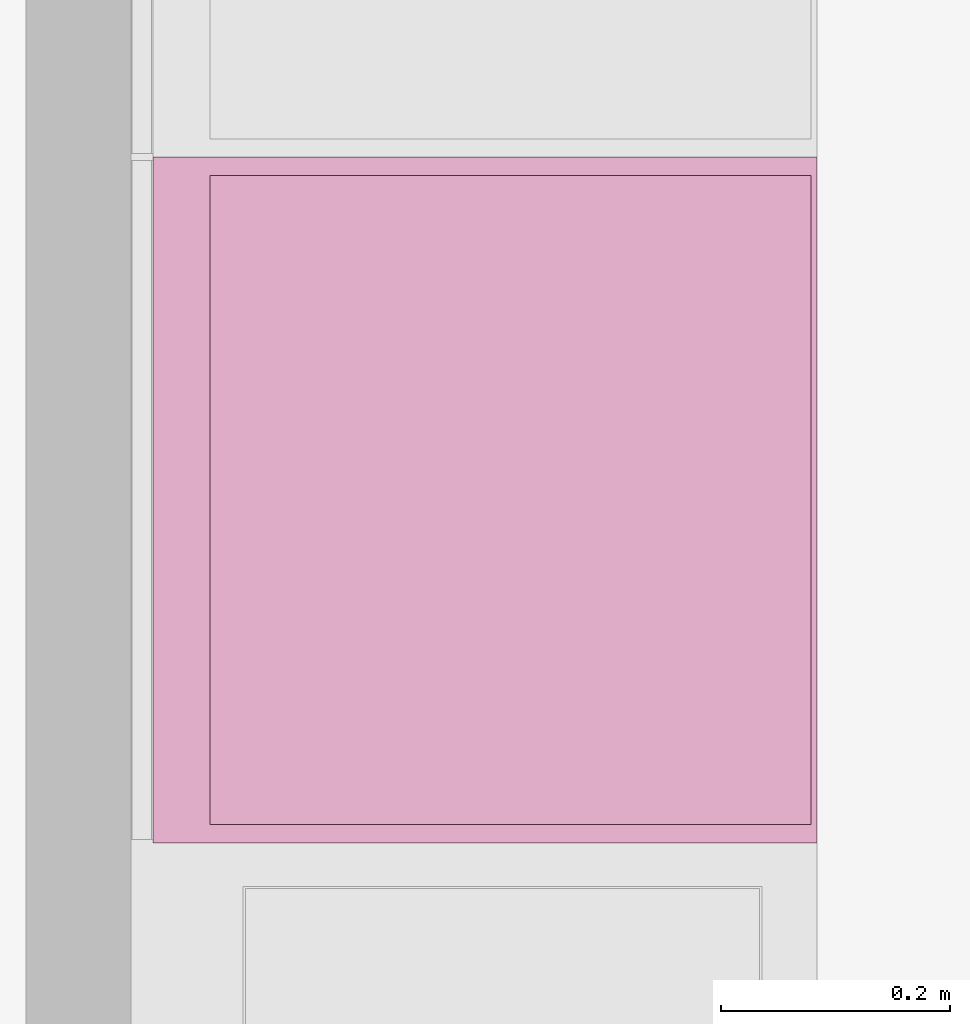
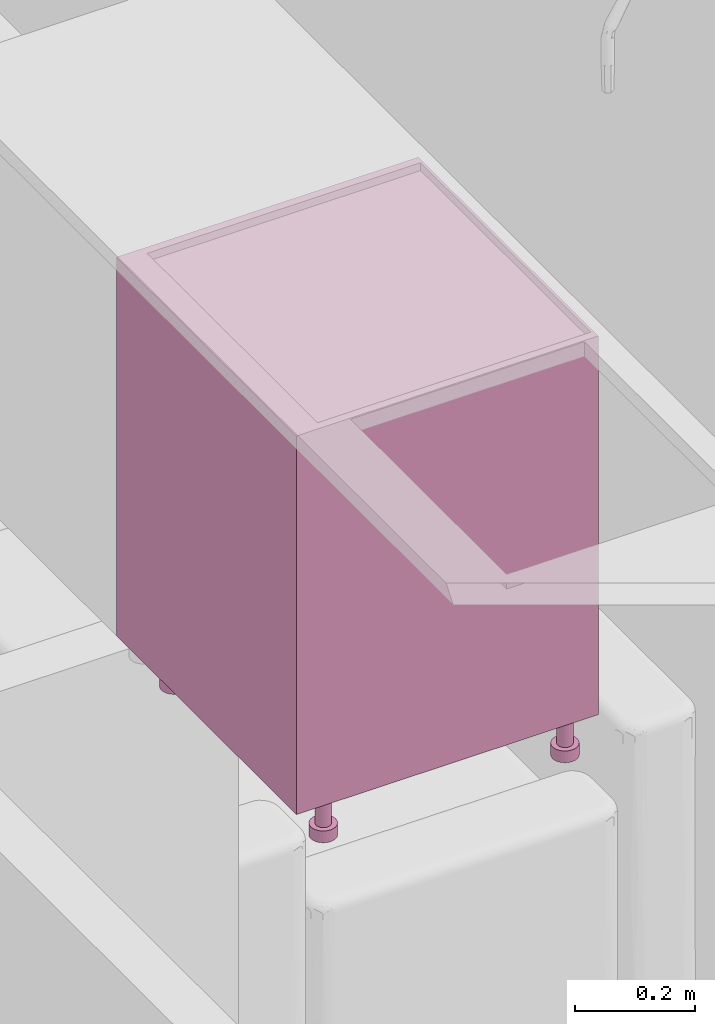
# One storey, part 77 of 125: 1 furnishing.
"""IFC2X3 building model written with IfcOpenShell, lengths in millimetres."""

from ifc_helpers import new_model, entity, si_unit, converted_unit, direction, frame, origin, place, context, subcontext, project, spatial, faceted_brep, source, transform, mapped, material, type_object, type_shapes, element, save


model = new_model("IFC2X3")

# Units and contexts
model_context = context("Model", 3, precision=0.01, world=origin(), true_north=direction((6.123233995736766e-17, 1.0)))
plan_context = context("Plan", 3, precision=0.01, world=origin(), true_north=direction((6.123233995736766e-17, 1.0)))
body_context = subcontext(model_context, "Body", "Model", "MODEL_VIEW")
ifc_project = project(units=[si_unit("LENGTHUNIT", "METRE", prefix="MILLI"), converted_unit("PLANEANGLEUNIT", "DEGREE", entity("IfcPlaneAngleMeasure", 0.017453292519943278), si_unit("PLANEANGLEUNIT", "RADIAN"), dimensions=[0, 0, 0, 0, 0, 0, 0]), si_unit("AREAUNIT", "SQUARE_METRE")], contexts=[model_context, plan_context])

# Site, building, storey, space
site_placement = place(None, origin())
site = spatial("IfcSite", under=ifc_project, at=site_placement, Name="Default", CompositionType="ELEMENT")
building_placement = place(site_placement, origin())
building = spatial("IfcBuilding", under=site, at=building_placement, CompositionType="ELEMENT")
storey_placement = place(building_placement, frame((0.0, 0.0, 3125.0)))
storey = spatial("IfcBuildingStorey", under=building, at=storey_placement, Name="2K", CompositionType="ELEMENT", Elevation=3125.0)
space_placement = place(storey_placement, origin())
space = spatial("IfcSpace", under=storey, at=space_placement, Name="2-2.2", CompositionType="ELEMENT", InteriorOrExteriorSpace="INTERNAL")

# Furnishing
ifc_material = material(Name="<Unnamed>")
furniture_type = type_object("IfcFurnitureType", Name="HR_Casework_Kitchen_Generic_Appliance_v1:Dishwasher", AssemblyPlace="NOTDEFINED", material=ifc_material)
shared_shape = source(origin(), body_context, "Body", "Brep", [
    faceted_brep([(305.7003264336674, -585.7846096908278, -3101.0), (310.6708891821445, -581.9705627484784, -3101.0), (300.70032643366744, -577.1243556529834, -3101.0), (297.32379306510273, -578.5229615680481, -3101.0), (299.91198351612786, -588.1822198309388, -3101.0), (303.59982137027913, -574.8994949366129, -3101.0), (314.4849361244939, -577.0, -3101.0), (305.82468208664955, -572.0, -3101.0), (307.2232880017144, -568.6234666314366, -3101.0), (316.8825462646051, -571.2116570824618, -3101.0), (307.70032643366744, -565.0, -3101.0), (317.7003264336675, -565.0, -3101.0), (307.2232880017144, -561.3765333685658, -3101.0), (316.88254626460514, -558.7883429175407, -3101.0), (305.82468208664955, -558.0, -3101.0), (314.484936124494, -553.0, -3101.0), (303.59982137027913, -555.1005050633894, -3101.0), (310.67088918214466, -548.0294372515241, -3101.0), (300.70032643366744, -552.875644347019, -3101.0), (305.7003264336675, -544.2153903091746, -3101.0), (297.32379306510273, -551.4770384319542, -3101.0), (299.91198351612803, -541.8177801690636, -3101.0), (293.7003264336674, -551.0, -3101.0), (293.70032643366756, -541.0, -3101.0), (290.07685980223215, -551.4770384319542, -3101.0), (287.488669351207, -541.8177801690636, -3101.0), (286.70032643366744, -552.875644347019, -3101.0), (281.7003264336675, -544.2153903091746, -3101.0), (283.80083149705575, -555.1005050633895, -3101.0), (276.7297636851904, -548.029437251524, -3101.0), (281.5759707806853, -558.0, -3101.0), (272.91571674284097, -553.0, -3101.0), (270.51810660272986, -558.7883429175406, -3101.0), (280.1773648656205, -561.3765333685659, -3101.0), (269.7003264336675, -565.0, -3101.0), (279.7003264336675, -565.0, -3101.0), (270.51810660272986, -571.2116570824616, -3101.0), (280.1773648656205, -568.6234666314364, -3101.0), (272.9157167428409, -577.0, -3101.0), (281.57597078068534, -572.0, -3101.0), (276.7297636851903, -581.9705627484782, -3101.0), (283.80083149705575, -574.8994949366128, -3101.0), (281.70032643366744, -585.7846096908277, -3101.0), (286.70032643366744, -577.1243556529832, -3101.0), (287.4886693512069, -588.1822198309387, -3101.0), (290.07685980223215, -578.5229615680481, -3101.0), (293.7003264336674, -589.0, -3101.0), (293.70032643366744, -579.0, -3101.0), (299.91198351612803, -541.8177801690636, -3125.0), (305.7003264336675, -544.2153903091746, -3125.0), (310.67088918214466, -548.0294372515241, -3125.0), (314.484936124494, -553.0, -3125.0), (316.88254626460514, -558.7883429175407, -3125.0), (317.7003264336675, -565.0, -3125.0), (316.8825462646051, -571.2116570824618, -3125.0), (314.4849361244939, -577.0, -3125.0), (310.6708891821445, -581.9705627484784, -3125.0), (305.7003264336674, -585.7846096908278, -3125.0), (299.91198351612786, -588.1822198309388, -3125.0), (293.7003264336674, -589.0, -3125.0), (287.4886693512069, -588.1822198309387, -3125.0), (281.70032643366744, -585.7846096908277, -3125.0), (276.7297636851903, -581.9705627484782, -3125.0), (272.9157167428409, -577.0, -3125.0), (270.51810660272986, -571.2116570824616, -3125.0), (269.7003264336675, -565.0, -3125.0), (270.51810660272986, -558.7883429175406, -3125.0), (272.91571674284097, -553.0, -3125.0), (276.7297636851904, -548.029437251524, -3125.0), (281.7003264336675, -544.2153903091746, -3125.0), (287.488669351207, -541.8177801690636, -3125.0), (293.70032643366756, -541.0, -3125.0), (297.32379306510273, -578.5229615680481, -3025.0), (300.70032643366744, -577.1243556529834, -3025.0), (303.59982137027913, -574.8994949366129, -3025.0), (305.8246820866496, -572.0, -3025.0), (307.2232880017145, -568.6234666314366, -3025.0), (307.70032643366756, -565.0, -3025.0), (307.2232880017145, -561.3765333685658, -3025.0), (305.8246820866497, -558.0, -3025.0), (303.5998213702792, -555.1005050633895, -3025.0), (300.70032643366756, -552.875644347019, -3025.0), (297.32379306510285, -551.4770384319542, -3025.0), (293.70032643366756, -551.0, -3025.0), (290.07685980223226, -551.4770384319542, -3025.0), (286.70032643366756, -552.875644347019, -3025.0), (283.80083149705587, -555.1005050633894, -3025.0), (281.5759707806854, -558.0, -3025.0), (280.1773648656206, -561.3765333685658, -3025.0), (279.70032643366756, -565.0, -3025.0), (280.1773648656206, -568.6234666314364, -3025.0), (281.5759707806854, -572.0, -3025.0), (283.8008314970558, -574.8994949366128, -3025.0), (286.7003264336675, -577.1243556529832, -3025.0), (290.07685980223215, -578.5229615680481, -3025.0), (293.70032643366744, -579.0, -3025.0)], [[[0, 1, 2]], [[0, 2, 3]], [[3, 4, 0]], [[2, 1, 5]], [[6, 5, 1]], [[7, 5, 6]], [[8, 7, 6]], [[8, 6, 9]], [[8, 9, 10]], [[10, 9, 11]], [[12, 10, 11]], [[12, 11, 13]], [[14, 12, 13]], [[14, 13, 15]], [[16, 14, 15]], [[15, 17, 16]], [[17, 18, 16]], [[18, 17, 19]], [[18, 19, 20]], [[21, 20, 19]], [[20, 21, 22]], [[22, 21, 23]], [[23, 24, 22]], [[24, 23, 25]], [[24, 25, 26]], [[27, 26, 25]], [[27, 28, 26]], [[27, 29, 28]], [[30, 28, 29]], [[31, 30, 29]], [[32, 30, 31]], [[33, 30, 32]], [[33, 32, 34]], [[34, 35, 33]], [[36, 35, 34]], [[36, 37, 35]], [[37, 36, 38]], [[39, 37, 38]], [[39, 38, 40]], [[39, 40, 41]], [[40, 42, 41]], [[41, 42, 43]], [[43, 42, 44]], [[44, 45, 43]], [[46, 45, 44]], [[4, 47, 46]], [[45, 46, 47]], [[4, 3, 47]], [[48, 49, 50, 51, 52, 53, 54, 55, 56, 57, 58, 59, 60, 61, 62, 63, 64, 65, 66, 67, 68, 69, 70, 71]], [[64, 36, 34, 65]], [[63, 38, 36, 64]], [[42, 40, 62, 61]], [[63, 62, 40, 38]], [[44, 42, 61, 60]], [[46, 44, 60, 59]], [[58, 4, 46, 59]], [[57, 0, 4, 58]], [[54, 53, 11, 9]], [[1, 0, 57, 56]], [[6, 55, 54, 9]], [[6, 1, 56, 55]], [[52, 13, 11, 53]], [[51, 15, 13, 52]], [[19, 17, 50, 49]], [[51, 50, 17, 15]], [[21, 19, 49, 48]], [[23, 21, 48, 71]], [[27, 69, 68, 29]], [[31, 67, 66, 32]], [[68, 67, 31, 29]], [[32, 66, 65, 34]], [[25, 70, 69, 27]], [[70, 25, 23, 71]], [[72, 73, 74, 75, 76, 77, 78, 79, 80, 81, 82, 83, 84, 85, 86, 87, 88, 89, 90, 91, 92, 93, 94, 95]], [[37, 39, 91, 90]], [[35, 37, 90, 89]], [[43, 45, 94, 93]], [[41, 43, 93, 92]], [[39, 41, 92, 91]], [[47, 95, 94, 45]], [[2, 5, 74, 73]], [[3, 2, 73, 72]], [[8, 10, 77, 76]], [[7, 8, 76, 75]], [[5, 7, 75, 74]], [[3, 72, 95, 47]], [[79, 78, 12, 14]], [[78, 77, 10, 12]], [[80, 16, 18, 81]], [[16, 80, 79, 14]], [[81, 18, 20, 82]], [[22, 83, 82, 20]], [[26, 28, 86, 85]], [[24, 26, 85, 84]], [[33, 35, 89, 88]], [[30, 33, 88, 87]], [[28, 30, 87, 86]], [[24, 84, 83, 22]]]),
    faceted_brep([(-192.29967356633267, -585.7846096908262, -3101.0), (-187.3291108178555, -581.9705627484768, -3101.0), (-197.29967356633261, -577.1243556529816, -3101.0), (-200.67620693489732, -578.5229615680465, -3101.0), (-198.08801648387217, -588.1822198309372, -3101.0), (-194.40017862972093, -574.8994949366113, -3101.0), (-183.51506387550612, -577.0, -3101.0), (-192.17531791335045, -572.0, -3101.0), (-190.77671199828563, -568.6234666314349, -3101.0), (-181.11745373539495, -571.2116570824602, -3101.0), (-190.29967356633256, -565.0, -3101.0), (-180.29967356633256, -565.0, -3101.0), (-190.77671199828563, -561.3765333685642, -3101.0), (-181.11745373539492, -558.788342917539, -3101.0), (-192.17531791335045, -558.0, -3101.0), (-183.515063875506, -553.0, -3101.0), (-194.40017862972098, -555.1005050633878, -3101.0), (-187.3291108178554, -548.0294372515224, -3101.0), (-197.29967356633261, -552.8756443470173, -3101.0), (-192.29967356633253, -544.215390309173, -3101.0), (-200.67620693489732, -551.4770384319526, -3101.0), (-198.08801648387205, -541.8177801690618, -3101.0), (-204.29967356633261, -551.0, -3101.0), (-204.29967356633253, -541.0, -3101.0), (-207.92314019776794, -551.4770384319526, -3101.0), (-210.51133064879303, -541.8177801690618, -3101.0), (-211.29967356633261, -552.8756443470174, -3101.0), (-216.29967356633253, -544.215390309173, -3101.0), (-214.19916850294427, -555.1005050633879, -3101.0), (-221.27023631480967, -548.0294372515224, -3101.0), (-216.42402921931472, -558.0, -3101.0), (-225.08428325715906, -553.0, -3101.0), (-227.48189339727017, -558.788342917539, -3101.0), (-217.8226351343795, -561.3765333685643, -3101.0), (-228.2996735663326, -565.0, -3101.0), (-218.29967356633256, -565.0, -3101.0), (-227.48189339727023, -571.21165708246, -3101.0), (-217.8226351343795, -568.6234666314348, -3101.0), (-225.08428325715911, -577.0, -3101.0), (-216.42402921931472, -572.0, -3101.0), (-221.27023631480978, -581.9705627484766, -3101.0), (-214.19916850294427, -574.8994949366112, -3101.0), (-216.29967356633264, -585.784609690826, -3101.0), (-211.29967356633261, -577.1243556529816, -3101.0), (-210.51133064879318, -588.1822198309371, -3101.0), (-207.9231401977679, -578.5229615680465, -3101.0), (-204.2996735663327, -589.0, -3101.0), (-204.29967356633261, -579.0, -3101.0), (-198.08801648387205, -541.8177801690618, -3125.0), (-192.29967356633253, -544.215390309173, -3125.0), (-187.3291108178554, -548.0294372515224, -3125.0), (-183.515063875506, -553.0, -3125.0), (-181.11745373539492, -558.788342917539, -3125.0), (-180.29967356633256, -565.0, -3125.0), (-181.11745373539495, -571.2116570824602, -3125.0), (-183.51506387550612, -577.0, -3125.0), (-187.3291108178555, -581.9705627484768, -3125.0), (-192.29967356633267, -585.7846096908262, -3125.0), (-198.08801648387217, -588.1822198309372, -3125.0), (-204.2996735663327, -589.0, -3125.0), (-210.51133064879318, -588.1822198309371, -3125.0), (-216.29967356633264, -585.784609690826, -3125.0), (-221.27023631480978, -581.9705627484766, -3125.0), (-225.08428325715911, -577.0, -3125.0), (-227.48189339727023, -571.21165708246, -3125.0), (-228.2996735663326, -565.0, -3125.0), (-227.48189339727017, -558.788342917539, -3125.0), (-225.08428325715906, -553.0, -3125.0), (-221.27023631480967, -548.0294372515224, -3125.0), (-216.29967356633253, -544.215390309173, -3125.0), (-210.51133064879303, -541.8177801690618, -3125.0), (-204.29967356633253, -541.0, -3125.0), (-200.67620693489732, -578.5229615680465, -3025.0), (-197.29967356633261, -577.1243556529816, -3025.0), (-194.40017862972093, -574.8994949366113, -3025.0), (-192.17531791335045, -572.0, -3025.0), (-190.77671199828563, -568.6234666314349, -3025.0), (-190.29967356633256, -565.0, -3025.0), (-190.77671199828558, -561.3765333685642, -3025.0), (-192.1753179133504, -558.0, -3025.0), (-194.40017862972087, -555.1005050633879, -3025.0), (-197.29967356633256, -552.8756443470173, -3025.0), (-200.67620693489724, -551.4770384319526, -3025.0), (-204.29967356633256, -551.0, -3025.0), (-207.92314019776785, -551.4770384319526, -3025.0), (-211.29967356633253, -552.8756443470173, -3025.0), (-214.1991685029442, -555.1005050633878, -3025.0), (-216.4240292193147, -558.0, -3025.0), (-217.8226351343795, -561.3765333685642, -3025.0), (-218.29967356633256, -565.0, -3025.0), (-217.8226351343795, -568.6234666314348, -3025.0), (-216.42402921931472, -572.0, -3025.0), (-214.19916850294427, -574.8994949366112, -3025.0), (-211.2996735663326, -577.1243556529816, -3025.0), (-207.9231401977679, -578.5229615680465, -3025.0), (-204.29967356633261, -579.0, -3025.0)], [[[0, 1, 2]], [[0, 2, 3]], [[3, 4, 0]], [[2, 1, 5]], [[6, 5, 1]], [[7, 5, 6]], [[8, 7, 6]], [[8, 6, 9]], [[8, 9, 10]], [[10, 9, 11]], [[12, 10, 11]], [[12, 11, 13]], [[14, 12, 13]], [[14, 13, 15]], [[16, 14, 15]], [[15, 17, 16]], [[17, 18, 16]], [[18, 17, 19]], [[18, 19, 20]], [[21, 20, 19]], [[20, 21, 22]], [[22, 21, 23]], [[23, 24, 22]], [[24, 23, 25]], [[24, 25, 26]], [[27, 26, 25]], [[27, 28, 26]], [[27, 29, 28]], [[30, 28, 29]], [[31, 30, 29]], [[32, 30, 31]], [[33, 30, 32]], [[33, 32, 34]], [[34, 35, 33]], [[36, 35, 34]], [[36, 37, 35]], [[37, 36, 38]], [[39, 37, 38]], [[39, 38, 40]], [[39, 40, 41]], [[40, 42, 41]], [[41, 42, 43]], [[43, 42, 44]], [[44, 45, 43]], [[46, 45, 44]], [[4, 47, 46]], [[45, 46, 47]], [[4, 3, 47]], [[48, 49, 50, 51, 52, 53, 54, 55, 56, 57, 58, 59, 60, 61, 62, 63, 64, 65, 66, 67, 68, 69, 70, 71]], [[64, 36, 34, 65]], [[63, 38, 36, 64]], [[42, 40, 62, 61]], [[63, 62, 40, 38]], [[44, 42, 61, 60]], [[46, 44, 60, 59]], [[58, 4, 46, 59]], [[57, 0, 4, 58]], [[54, 53, 11, 9]], [[1, 0, 57, 56]], [[6, 55, 54, 9]], [[6, 1, 56, 55]], [[52, 13, 11, 53]], [[51, 15, 13, 52]], [[19, 17, 50, 49]], [[51, 50, 17, 15]], [[21, 19, 49, 48]], [[23, 21, 48, 71]], [[27, 69, 68, 29]], [[31, 67, 66, 32]], [[68, 67, 31, 29]], [[32, 66, 65, 34]], [[25, 70, 69, 27]], [[70, 25, 23, 71]], [[72, 73, 74, 75, 76, 77, 78, 79, 80, 81, 82, 83, 84, 85, 86, 87, 88, 89, 90, 91, 92, 93, 94, 95]], [[37, 39, 91, 90]], [[35, 37, 90, 89]], [[43, 45, 94, 93]], [[41, 43, 93, 92]], [[39, 41, 92, 91]], [[47, 95, 94, 45]], [[2, 5, 74, 73]], [[3, 2, 73, 72]], [[8, 10, 77, 76]], [[7, 8, 76, 75]], [[5, 7, 75, 74]], [[3, 72, 95, 47]], [[79, 78, 12, 14]], [[78, 77, 10, 12]], [[80, 16, 18, 81]], [[16, 80, 79, 14]], [[81, 18, 20, 82]], [[22, 83, 82, 20]], [[26, 28, 86, 85]], [[24, 26, 85, 84]], [[33, 35, 89, 88]], [[30, 33, 88, 87]], [[28, 30, 87, 86]], [[24, 84, 83, 22]]]),
    faceted_brep([(305.70032643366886, -120.78460969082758, -3101.0), (310.670889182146, -116.97056274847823, -3101.0), (300.7003264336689, -112.12435565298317, -3101.0), (297.3237930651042, -113.52296156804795, -3101.0), (299.91198351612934, -123.18221983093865, -3101.0), (303.5998213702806, -109.8994949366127, -3101.0), (314.48493612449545, -112.0, -3101.0), (305.824682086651, -107.0, -3101.0), (307.2232880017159, -103.62346663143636, -3101.0), (316.88254626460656, -106.21165708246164, -3101.0), (307.700326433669, -100.0, -3101.0), (317.700326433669, -100.0, -3101.0), (307.2232880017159, -96.3765333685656, -3101.0), (316.8825462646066, -93.78834291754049, -3101.0), (305.824682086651, -93.0, -3101.0), (314.4849361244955, -88.0, -3101.0), (303.5998213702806, -90.10050506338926, -3101.0), (310.67088918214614, -83.02943725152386, -3101.0), (300.7003264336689, -87.8756443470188, -3101.0), (305.700326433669, -79.21539030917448, -3101.0), (297.3237930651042, -86.477038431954, -3101.0), (299.9119835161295, -76.81778016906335, -3101.0), (293.70032643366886, -86.0, -3101.0), (293.70032643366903, -76.0, -3101.0), (290.0768598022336, -86.47703843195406, -3101.0), (287.4886693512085, -76.81778016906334, -3101.0), (286.7003264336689, -87.87564434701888, -3101.0), (281.700326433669, -79.21539030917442, -3101.0), (283.8008314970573, -90.10050506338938, -3101.0), (276.72976368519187, -83.0294372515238, -3101.0), (281.5759707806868, -93.0, -3101.0), (272.91571674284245, -88.0, -3101.0), (270.51810660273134, -93.78834291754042, -3101.0), (280.177364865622, -96.37653336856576, -3101.0), (269.700326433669, -100.0, -3101.0), (279.700326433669, -100.0, -3101.0), (270.51810660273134, -106.2116570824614, -3101.0), (280.177364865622, -103.62346663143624, -3101.0), (272.9157167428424, -112.0, -3101.0), (281.5759707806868, -107.0, -3101.0), (276.72976368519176, -116.97056274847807, -3101.0), (283.8008314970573, -109.89949493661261, -3101.0), (281.7003264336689, -120.78460969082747, -3101.0), (286.7003264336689, -112.1243556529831, -3101.0), (287.4886693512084, -123.1822198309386, -3101.0), (290.0768598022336, -113.52296156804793, -3101.0), (293.70032643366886, -124.0, -3101.0), (293.7003264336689, -114.0, -3101.0), (299.9119835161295, -76.81778016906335, -3125.0), (305.700326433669, -79.21539030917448, -3125.0), (310.67088918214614, -83.02943725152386, -3125.0), (314.4849361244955, -88.0, -3125.0), (316.8825462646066, -93.78834291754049, -3125.0), (317.700326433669, -100.0, -3125.0), (316.88254626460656, -106.21165708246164, -3125.0), (314.48493612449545, -112.0, -3125.0), (310.670889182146, -116.97056274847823, -3125.0), (305.70032643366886, -120.78460969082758, -3125.0), (299.91198351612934, -123.18221983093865, -3125.0), (293.70032643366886, -124.0, -3125.0), (287.4886693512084, -123.1822198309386, -3125.0), (281.7003264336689, -120.78460969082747, -3125.0), (276.72976368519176, -116.97056274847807, -3125.0), (272.9157167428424, -112.0, -3125.0), (270.51810660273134, -106.2116570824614, -3125.0), (269.700326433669, -100.0, -3125.0), (270.51810660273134, -93.78834291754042, -3125.0), (272.91571674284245, -88.0, -3125.0), (276.72976368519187, -83.0294372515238, -3125.0), (281.700326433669, -79.21539030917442, -3125.0), (287.4886693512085, -76.81778016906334, -3125.0), (293.70032643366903, -76.0, -3125.0), (297.32379306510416, -113.52296156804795, -3025.0), (300.70032643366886, -112.12435565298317, -3025.0), (303.59982137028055, -109.8994949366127, -3025.0), (305.824682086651, -107.0, -3025.0), (307.22328800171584, -103.62346663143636, -3025.0), (307.700326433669, -100.0, -3025.0), (307.2232880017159, -96.3765333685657, -3025.0), (305.82468208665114, -93.0, -3025.0), (303.5998213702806, -90.10050506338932, -3025.0), (300.700326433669, -87.87564434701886, -3025.0), (297.32379306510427, -86.47703843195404, -3025.0), (293.700326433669, -86.0, -3025.0), (290.0768598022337, -86.47703843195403, -3025.0), (286.700326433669, -87.87564434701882, -3025.0), (283.8008314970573, -90.1005050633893, -3025.0), (281.5759707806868, -93.0, -3025.0), (280.177364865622, -96.37653336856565, -3025.0), (279.700326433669, -100.0, -3025.0), (280.177364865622, -103.62346663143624, -3025.0), (281.5759707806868, -107.0, -3025.0), (283.80083149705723, -109.89949493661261, -3025.0), (286.7003264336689, -112.1243556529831, -3025.0), (290.07685980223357, -113.52296156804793, -3025.0), (293.70032643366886, -114.0, -3025.0)], [[[0, 1, 2]], [[0, 2, 3]], [[3, 4, 0]], [[2, 1, 5]], [[6, 5, 1]], [[7, 5, 6]], [[8, 7, 6]], [[8, 6, 9]], [[8, 9, 10]], [[10, 9, 11]], [[12, 10, 11]], [[12, 11, 13]], [[14, 12, 13]], [[14, 13, 15]], [[16, 14, 15]], [[15, 17, 16]], [[17, 18, 16]], [[18, 17, 19]], [[18, 19, 20]], [[21, 20, 19]], [[20, 21, 22]], [[22, 21, 23]], [[23, 24, 22]], [[24, 23, 25]], [[24, 25, 26]], [[27, 26, 25]], [[27, 28, 26]], [[27, 29, 28]], [[30, 28, 29]], [[31, 30, 29]], [[32, 30, 31]], [[33, 30, 32]], [[33, 32, 34]], [[34, 35, 33]], [[36, 35, 34]], [[36, 37, 35]], [[37, 36, 38]], [[39, 37, 38]], [[39, 38, 40]], [[39, 40, 41]], [[40, 42, 41]], [[41, 42, 43]], [[43, 42, 44]], [[44, 45, 43]], [[46, 45, 44]], [[4, 47, 46]], [[45, 46, 47]], [[4, 3, 47]], [[48, 49, 50, 51, 52, 53, 54, 55, 56, 57, 58, 59, 60, 61, 62, 63, 64, 65, 66, 67, 68, 69, 70, 71]], [[64, 36, 34, 65]], [[63, 38, 36, 64]], [[42, 40, 62, 61]], [[63, 62, 40, 38]], [[44, 42, 61, 60]], [[46, 44, 60, 59]], [[58, 4, 46, 59]], [[57, 0, 4, 58]], [[54, 53, 11, 9]], [[1, 0, 57, 56]], [[6, 55, 54, 9]], [[6, 1, 56, 55]], [[52, 13, 11, 53]], [[51, 15, 13, 52]], [[19, 17, 50, 49]], [[51, 50, 17, 15]], [[21, 19, 49, 48]], [[23, 21, 48, 71]], [[27, 69, 68, 29]], [[31, 67, 66, 32]], [[68, 67, 31, 29]], [[32, 66, 65, 34]], [[25, 70, 69, 27]], [[70, 25, 23, 71]], [[72, 73, 74, 75, 76, 77, 78, 79, 80, 81, 82, 83, 84, 85, 86, 87, 88, 89, 90, 91, 92, 93, 94, 95]], [[37, 39, 91, 90]], [[35, 37, 90, 89]], [[43, 45, 94, 93]], [[41, 43, 93, 92]], [[39, 41, 92, 91]], [[47, 95, 94, 45]], [[2, 5, 74, 73]], [[3, 2, 73, 72]], [[8, 10, 77, 76]], [[7, 8, 76, 75]], [[5, 7, 75, 74]], [[3, 72, 95, 47]], [[79, 78, 12, 14]], [[78, 77, 10, 12]], [[80, 16, 18, 81]], [[16, 80, 79, 14]], [[81, 18, 20, 82]], [[22, 83, 82, 20]], [[26, 28, 86, 85]], [[24, 26, 85, 84]], [[33, 35, 89, 88]], [[30, 33, 88, 87]], [[28, 30, 87, 86]], [[24, 84, 83, 22]]]),
    faceted_brep([(-192.299673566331, -120.78460969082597, -3101.0), (-187.3291108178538, -116.97056274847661, -3101.0), (-197.29967356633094, -112.12435565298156, -3101.0), (-200.67620693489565, -113.52296156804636, -3101.0), (-198.0880164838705, -123.18221983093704, -3101.0), (-194.40017862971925, -109.89949493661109, -3101.0), (-183.5150638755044, -112.0, -3101.0), (-192.17531791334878, -107.0, -3101.0), (-190.77671199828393, -103.62346663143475, -3101.0), (-181.11745373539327, -106.21165708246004, -3101.0), (-190.29967356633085, -100.0, -3101.0), (-180.29967356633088, -100.0, -3101.0), (-190.77671199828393, -96.376533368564, -3101.0), (-181.11745373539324, -93.78834291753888, -3101.0), (-192.17531791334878, -93.0, -3101.0), (-183.51506387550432, -88.0, -3101.0), (-194.40017862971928, -90.10050506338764, -3101.0), (-187.32911081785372, -83.02943725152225, -3101.0), (-197.29967356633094, -87.8756443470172, -3101.0), (-192.29967356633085, -79.21539030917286, -3101.0), (-200.67620693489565, -86.4770384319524, -3101.0), (-198.08801648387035, -76.81778016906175, -3101.0), (-204.29967356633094, -86.0, -3101.0), (-204.29967356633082, -76.0, -3101.0), (-207.92314019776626, -86.47703843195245, -3101.0), (-210.51133064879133, -76.81778016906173, -3101.0), (-211.29967356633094, -87.87564434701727, -3101.0), (-216.29967356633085, -79.21539030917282, -3101.0), (-214.19916850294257, -90.10050506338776, -3101.0), (-221.270236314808, -83.0294372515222, -3101.0), (-216.424029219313, -93.0, -3101.0), (-225.08428325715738, -88.0, -3101.0), (-227.4818933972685, -93.78834291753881, -3101.0), (-217.82263513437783, -96.37653336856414, -3101.0), (-228.29967356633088, -100.0, -3101.0), (-218.29967356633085, -100.0, -3101.0), (-227.48189339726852, -106.2116570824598, -3101.0), (-217.82263513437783, -103.62346663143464, -3101.0), (-225.08428325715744, -112.0, -3101.0), (-216.424029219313, -107.0, -3101.0), (-221.27023631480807, -116.97056274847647, -3101.0), (-214.19916850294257, -109.899494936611, -3101.0), (-216.29967356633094, -120.78460969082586, -3101.0), (-211.29967356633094, -112.12435565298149, -3101.0), (-210.51133064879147, -123.18221983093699, -3101.0), (-207.9231401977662, -113.52296156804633, -3101.0), (-204.299673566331, -124.0, -3101.0), (-204.29967356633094, -114.0, -3101.0), (-198.08801648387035, -76.81778016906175, -3125.0), (-192.29967356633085, -79.21539030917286, -3125.0), (-187.32911081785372, -83.02943725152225, -3125.0), (-183.51506387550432, -88.0, -3125.0), (-181.11745373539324, -93.78834291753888, -3125.0), (-180.29967356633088, -100.0, -3125.0), (-181.11745373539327, -106.21165708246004, -3125.0), (-183.5150638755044, -112.0, -3125.0), (-187.3291108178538, -116.97056274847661, -3125.0), (-192.299673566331, -120.78460969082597, -3125.0), (-198.0880164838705, -123.18221983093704, -3125.0), (-204.299673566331, -124.0, -3125.0), (-210.51133064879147, -123.18221983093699, -3125.0), (-216.29967356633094, -120.78460969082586, -3125.0), (-221.27023631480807, -116.97056274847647, -3125.0), (-225.08428325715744, -112.0, -3125.0), (-227.48189339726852, -106.2116570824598, -3125.0), (-228.29967356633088, -100.0, -3125.0), (-227.4818933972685, -93.78834291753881, -3125.0), (-225.08428325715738, -88.0, -3125.0), (-221.270236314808, -83.0294372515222, -3125.0), (-216.29967356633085, -79.21539030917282, -3125.0), (-210.51133064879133, -76.81778016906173, -3125.0), (-204.29967356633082, -76.0, -3125.0), (-200.67620693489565, -113.52296156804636, -3025.0), (-197.29967356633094, -112.12435565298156, -3025.0), (-194.40017862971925, -109.89949493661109, -3025.0), (-192.17531791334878, -107.0, -3025.0), (-190.77671199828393, -103.62346663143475, -3025.0), (-190.29967356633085, -100.0, -3025.0), (-190.7767119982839, -96.3765333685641, -3025.0), (-192.1753179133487, -93.0, -3025.0), (-194.4001786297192, -90.10050506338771, -3025.0), (-197.29967356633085, -87.87564434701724, -3025.0), (-200.67620693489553, -86.47703843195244, -3025.0), (-204.29967356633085, -86.0, -3025.0), (-207.92314019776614, -86.47703843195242, -3025.0), (-211.29967356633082, -87.87564434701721, -3025.0), (-214.1991685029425, -90.10050506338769, -3025.0), (-216.42402921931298, -93.0, -3025.0), (-217.82263513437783, -96.37653336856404, -3025.0), (-218.29967356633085, -100.0, -3025.0), (-217.82263513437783, -103.62346663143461, -3025.0), (-216.424029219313, -107.0, -3025.0), (-214.19916850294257, -109.899494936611, -3025.0), (-211.29967356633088, -112.12435565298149, -3025.0), (-207.9231401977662, -113.52296156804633, -3025.0), (-204.29967356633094, -114.0, -3025.0)], [[[0, 1, 2]], [[0, 2, 3]], [[3, 4, 0]], [[2, 1, 5]], [[6, 5, 1]], [[7, 5, 6]], [[8, 7, 6]], [[8, 6, 9]], [[8, 9, 10]], [[10, 9, 11]], [[12, 10, 11]], [[12, 11, 13]], [[14, 12, 13]], [[14, 13, 15]], [[16, 14, 15]], [[15, 17, 16]], [[17, 18, 16]], [[18, 17, 19]], [[18, 19, 20]], [[21, 20, 19]], [[20, 21, 22]], [[22, 21, 23]], [[23, 24, 22]], [[24, 23, 25]], [[24, 25, 26]], [[27, 26, 25]], [[27, 28, 26]], [[27, 29, 28]], [[30, 28, 29]], [[31, 30, 29]], [[32, 30, 31]], [[33, 30, 32]], [[33, 32, 34]], [[34, 35, 33]], [[36, 35, 34]], [[36, 37, 35]], [[37, 36, 38]], [[39, 37, 38]], [[39, 38, 40]], [[39, 40, 41]], [[40, 42, 41]], [[41, 42, 43]], [[43, 42, 44]], [[44, 45, 43]], [[46, 45, 44]], [[4, 47, 46]], [[45, 46, 47]], [[4, 3, 47]], [[48, 49, 50, 51, 52, 53, 54, 55, 56, 57, 58, 59, 60, 61, 62, 63, 64, 65, 66, 67, 68, 69, 70, 71]], [[64, 36, 34, 65]], [[63, 38, 36, 64]], [[42, 40, 62, 61]], [[63, 62, 40, 38]], [[44, 42, 61, 60]], [[46, 44, 60, 59]], [[58, 4, 46, 59]], [[57, 0, 4, 58]], [[54, 53, 11, 9]], [[1, 0, 57, 56]], [[6, 55, 54, 9]], [[6, 1, 56, 55]], [[52, 13, 11, 53]], [[51, 15, 13, 52]], [[19, 17, 50, 49]], [[51, 50, 17, 15]], [[21, 19, 49, 48]], [[23, 21, 48, 71]], [[27, 69, 68, 29]], [[31, 67, 66, 32]], [[68, 67, 31, 29]], [[32, 66, 65, 34]], [[25, 70, 69, 27]], [[70, 25, 23, 71]], [[72, 73, 74, 75, 76, 77, 78, 79, 80, 81, 82, 83, 84, 85, 86, 87, 88, 89, 90, 91, 92, 93, 94, 95]], [[37, 39, 91, 90]], [[35, 37, 90, 89]], [[43, 45, 94, 93]], [[41, 43, 93, 92]], [[39, 41, 92, 91]], [[47, 95, 94, 45]], [[2, 5, 74, 73]], [[3, 2, 73, 72]], [[8, 10, 77, 76]], [[7, 8, 76, 75]], [[5, 7, 75, 74]], [[3, 72, 95, 47]], [[79, 78, 12, 14]], [[78, 77, 10, 12]], [[80, 16, 18, 81]], [[16, 80, 79, 14]], [[81, 18, 20, 82]], [[22, 83, 82, 20]], [[26, 28, 86, 85]], [[24, 26, 85, 84]], [[33, 35, 89, 88]], [[30, 33, 88, 87]], [[28, 30, 87, 86]], [[24, 84, 83, 22]]]),
    faceted_brep([(328.70032643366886, -19.0, -3009.0), (-239.2996735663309, -19.0, -3009.0), (-239.29967356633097, -595.0, -3009.0), (328.70032643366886, -595.0, -3009.0), (328.70032643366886, -19.0, -3025.0), (328.70032643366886, -595.0, -3025.0), (-239.29967356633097, -595.0, -3025.0), (-239.29967356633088, -19.0, -3025.0)], [[[0, 1, 2, 3]], [[4, 5, 6, 7]], [[1, 0, 4, 7]], [[2, 1, 7, 6]], [[3, 2, 6, 5]], [[0, 3, 5, 4]]]),
    faceted_brep([(-255.29967356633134, -19.0, -2255.0), (-255.2996735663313, -600.0, -2255.0), (344.7003264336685, -600.0, -2255.0), (344.7003264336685, -19.0, -2255.0), (328.70032643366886, -19.0, -2255.0), (328.70032643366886, -595.0, -2255.0), (-239.2996735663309, -595.0, -2255.0), (-239.2996735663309, -19.0, -2255.0), (-255.29967356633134, -19.0, -3025.0), (-239.2996735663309, -19.0, -3025.0), (-239.29967356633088, -595.0, -3025.0), (328.70032643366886, -595.0, -3025.0), (328.70032643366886, -19.0, -3025.0), (344.7003264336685, -19.0, -3025.0), (344.7003264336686, -600.0, -3025.0), (-255.2996735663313, -600.0, -3025.0)], [[[0, 1, 2, 3, 4, 5, 6, 7]], [[8, 9, 10, 11, 12, 13, 14, 15]], [[1, 0, 8, 15]], [[0, 7, 9, 8]], [[7, 6, 10, 9]], [[5, 4, 12, 11]], [[4, 3, 13, 12]], [[3, 2, 14, 13]], [[2, 1, 15, 14]], [[6, 5, 11, 10]]]),
    faceted_brep([(328.70032643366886, -69.0, -2255.0), (328.70032643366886, -19.0, -2255.0), (-239.29967356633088, -19.0, -2255.0), (-239.29967356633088, -69.0, -2255.0), (328.70032643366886, -69.0, -2271.0), (-239.29967356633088, -69.0, -2271.0), (-239.29967356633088, -19.0, -2271.0), (328.70032643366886, -19.0, -2271.0)], [[[0, 1, 2, 3]], [[4, 5, 6, 7]], [[0, 3, 5, 4]], [[3, 2, 6, 5]], [[2, 1, 7, 6]], [[1, 0, 4, 7]]]),
    faceted_brep([(328.7003264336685, -19.0, -2271.0), (-239.29967356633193, -19.0, -2271.0), (-239.2996735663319, -595.0, -2271.0), (328.7003264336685, -595.0, -2271.0), (328.7003264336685, -19.0, -3009.0), (328.7003264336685, -595.0, -3009.0), (-239.2996735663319, -595.0, -3009.0), (-239.2996735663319, -19.0, -3009.0)], [[[0, 1, 2, 3]], [[4, 5, 6, 7]], [[1, 0, 4, 7]], [[2, 1, 7, 6]], [[3, 2, 6, 5]], [[0, 3, 5, 4]]]),
])
type_shapes(furniture_type, [shared_shape])
furnishing_placement = place(space_placement, frame((7250.0, 9793.299673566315, 6295.0), z_axis=(0.0, 0.0, 1.0), x_axis=(0.0, 1.0, 0.0)))
element("IfcFurnishingElement", 1, at=furnishing_placement, inside=space, type_object=furniture_type, material=ifc_material, Name="HR_Casework_Kitchen_Generic_Appliance_v1:Dishwasher", ObjectType="HR_Casework_Kitchen_Generic_Appliance_v1:Dishwasher", context=body_context, shape_type="MappedRepresentation", body=[
    mapped(shared_shape, transform((0.0, 0.0, 0.0), scale=1.0)),
])

save(model, "model.ifc")
